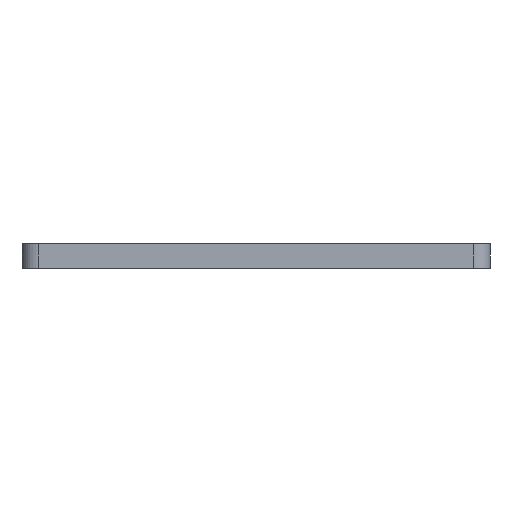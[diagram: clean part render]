
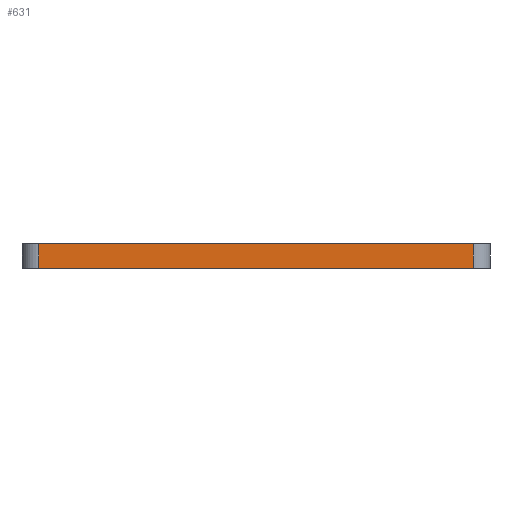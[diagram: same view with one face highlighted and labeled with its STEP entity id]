
A CAD part, front view. The second image highlights one B-rep face of the part: STEP entity #631.
In plain terms, the highlighted planar face has unit normal (0, -1, 0).
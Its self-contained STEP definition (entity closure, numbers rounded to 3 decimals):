
#6 = ORIENTED_EDGE ( 'NONE', *, *, #111, .T. ) ;
#13 = AXIS2_PLACEMENT_3D ( 'NONE', #174, #179, #565 ) ;
#16 = ORIENTED_EDGE ( 'NONE', *, *, #286, .T. ) ;
#20 = LINE ( 'NONE', #524, #599 ) ;
#45 = LINE ( 'NONE', #211, #492 ) ;
#72 = CARTESIAN_POINT ( 'NONE',  ( -39.5, 6.25, -2.25 ) ) ;
#76 = EDGE_CURVE ( 'NONE', #209, #394, #300, .T. ) ;
#77 = DIRECTION ( 'NONE',  ( 1., 0., 0. ) ) ;
#86 = CARTESIAN_POINT ( 'NONE',  ( -39.5, 6.25, -2.25 ) ) ;
#111 = EDGE_CURVE ( 'NONE', #228, #394, #475, .T. ) ;
#174 = CARTESIAN_POINT ( 'NONE',  ( -39.5, 6.25, 2.25 ) ) ;
#179 = DIRECTION ( 'NONE',  ( 0., 1., 0. ) ) ;
#209 = VERTEX_POINT ( 'NONE', #726 ) ;
#211 = CARTESIAN_POINT ( 'NONE',  ( -39.5, 6.25, 2.25 ) ) ;
#228 = VERTEX_POINT ( 'NONE', #86 ) ;
#241 = DIRECTION ( 'NONE',  ( 0., 0., -1. ) ) ;
#242 = DIRECTION ( 'NONE',  ( 1., 0., 0. ) ) ;
#267 = ORIENTED_EDGE ( 'NONE', *, *, #76, .F. ) ;
#286 = EDGE_CURVE ( 'NONE', #487, #228, #45, .T. ) ;
#300 = LINE ( 'NONE', #353, #536 ) ;
#324 = CARTESIAN_POINT ( 'NONE',  ( -39.5, 6.25, 2.25 ) ) ;
#330 = EDGE_LOOP ( 'NONE', ( #16, #6, #267, #637 ) ) ;
#334 = FACE_OUTER_BOUND ( 'NONE', #330, .T. ) ;
#353 = CARTESIAN_POINT ( 'NONE',  ( 39.5, 6.25, 2.25 ) ) ;
#394 = VERTEX_POINT ( 'NONE', #460 ) ;
#438 = VECTOR ( 'NONE', #77, 1000. ) ;
#460 = CARTESIAN_POINT ( 'NONE',  ( 39.5, 6.25, -2.25 ) ) ;
#475 = LINE ( 'NONE', #72, #438 ) ;
#487 = VERTEX_POINT ( 'NONE', #324 ) ;
#492 = VECTOR ( 'NONE', #704, 1000. ) ;
#524 = CARTESIAN_POINT ( 'NONE',  ( -39.5, 6.25, 2.25 ) ) ;
#536 = VECTOR ( 'NONE', #241, 1000. ) ;
#565 = DIRECTION ( 'NONE',  ( -1., 0., 0. ) ) ;
#599 = VECTOR ( 'NONE', #242, 1000. ) ;
#609 = EDGE_CURVE ( 'NONE', #487, #209, #20, .T. ) ;
#631 = ADVANCED_FACE ( 'NONE', ( #334 ), #698, .F. ) ;
#637 = ORIENTED_EDGE ( 'NONE', *, *, #609, .F. ) ;
#698 = PLANE ( 'NONE',  #13 ) ;
#704 = DIRECTION ( 'NONE',  ( 0., 0., -1. ) ) ;
#726 = CARTESIAN_POINT ( 'NONE',  ( 39.5, 6.25, 2.25 ) ) ;
